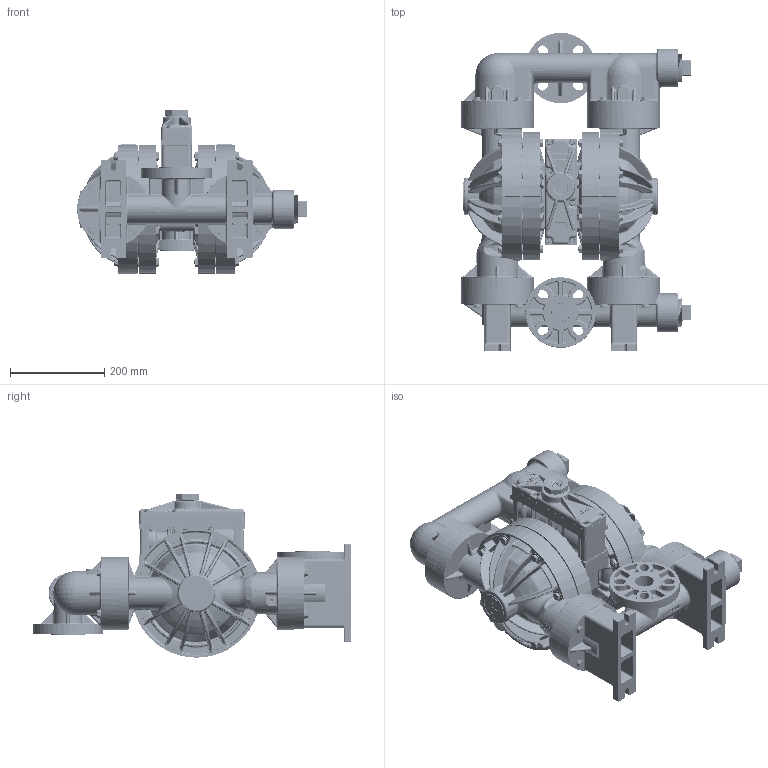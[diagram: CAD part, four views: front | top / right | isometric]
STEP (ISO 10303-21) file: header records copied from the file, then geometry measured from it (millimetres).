
FILE_DESCRIPTION (( 'STEP AP203' ), '1' );
FILE_NAME ('PS400_CP_Flanged_Final2.STEP', '2025-04-10T13:15:25', ( '' ), ( '' ), 'SwSTEP 2.0', 'SolidWorks 2022', '' );
FILE_SCHEMA (( 'CONFIG_CONTROL_DESIGN' ));
Products named in the file (1): PS400_CP_Flanged_Final2
Bounding box: 487.91 x 676.48 x 348.69 mm (x, y, z)
Volume: 24649686.5 mm3; surface area: 1699058.9 mm2
Topology: 1 solids, 85 shells, 14155 faces, 36227 edges, 22638 vertices
Faces by surface type: plane 6752, bspline 3314, cylinder 1698, cone 993, torus 818, sphere 580
Entity records: 813886 total; most frequent: CARTESIAN_POINT 555698, ORIENTED_EDGE 72312, EDGE_CURVE 36156, B_SPLINE_CURVE_WITH_KNOTS 29833, DIRECTION 25334, VERTEX_POINT 22610, EDGE_LOOP 14716, FACE_OUTER_BOUND 14146
